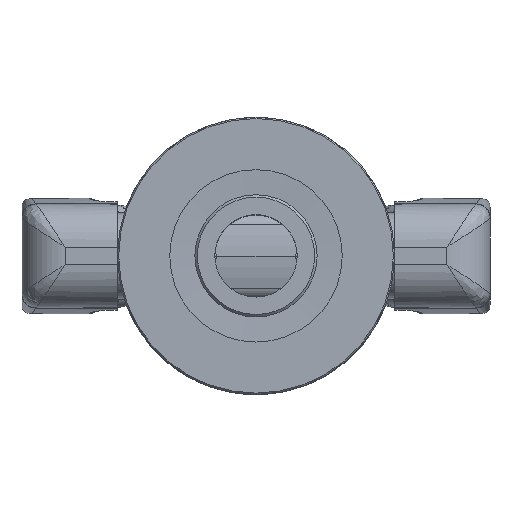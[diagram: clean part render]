
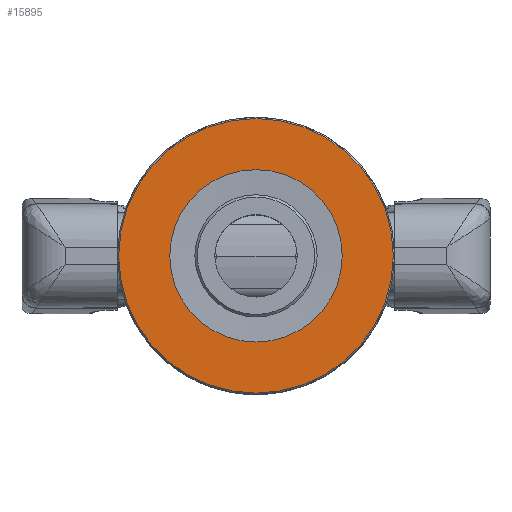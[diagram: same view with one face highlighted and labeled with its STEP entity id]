
A CAD part, top view. The second image highlights one B-rep face of the part: STEP entity #15895.
In plain terms, the highlighted planar face has unit normal (0, 0, 1) as drawn and (0, 0, -1) by its records, which use the part's own axes.
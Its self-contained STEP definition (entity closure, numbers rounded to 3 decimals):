
#160=FACE_BOUND('',#5009,.T.);
#3084=PLANE('',#17024);
#3999=FACE_OUTER_BOUND('',#5008,.T.);
#5008=EDGE_LOOP('',(#14952));
#5009=EDGE_LOOP('',(#14953));
#5406=CIRCLE('',#17021,22.3);
#5408=CIRCLE('',#17025,14.);
#7813=VERTEX_POINT('',#49518);
#7815=VERTEX_POINT('',#49524);
#10196=EDGE_CURVE('',#7813,#7813,#5406,.T.);
#10198=EDGE_CURVE('',#7815,#7815,#5408,.T.);
#14952=ORIENTED_EDGE('',*,*,#10196,.F.);
#14953=ORIENTED_EDGE('',*,*,#10198,.F.);
#15895=ADVANCED_FACE('',(#3999,#160),#3084,.F.);
#17021=AXIS2_PLACEMENT_3D('',#49519,#19987,#19988);
#17024=AXIS2_PLACEMENT_3D('',#49523,#19993,#19994);
#17025=AXIS2_PLACEMENT_3D('',#49525,#19995,#19996);
#19987=DIRECTION('center_axis',(0.,0.,1.));
#19988=DIRECTION('ref_axis',(-1.,0.,0.));
#19993=DIRECTION('center_axis',(0.,0.,1.));
#19994=DIRECTION('ref_axis',(1.,0.,0.));
#19995=DIRECTION('center_axis',(0.,0.,-1.));
#19996=DIRECTION('ref_axis',(-1.,0.,0.));
#49518=CARTESIAN_POINT('',(22.3,0.,0.));
#49519=CARTESIAN_POINT('Origin',(0.,0.,0.));
#49523=CARTESIAN_POINT('Origin',(0.,0.,0.));
#49524=CARTESIAN_POINT('',(14.,0.,0.));
#49525=CARTESIAN_POINT('Origin',(0.,0.,0.));
